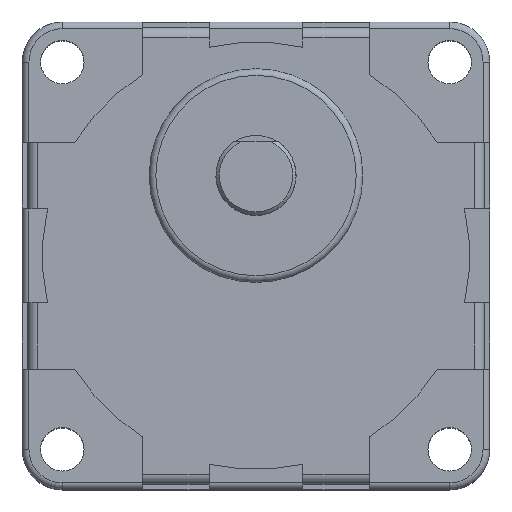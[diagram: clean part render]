
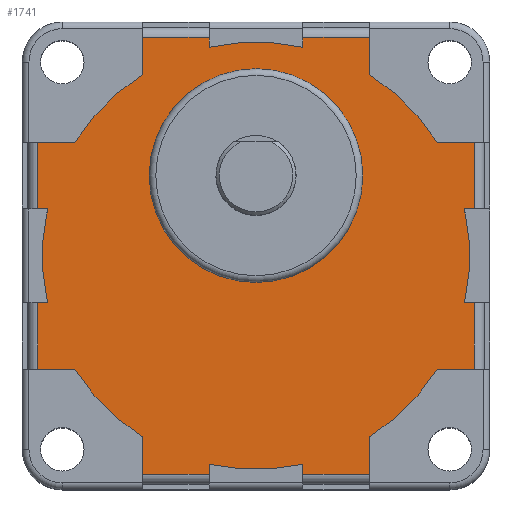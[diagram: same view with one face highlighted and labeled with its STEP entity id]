
A CAD part, top view. The second image highlights one B-rep face of the part: STEP entity #1741.
In plain terms, the highlighted planar face has unit normal (0, 0, 1).
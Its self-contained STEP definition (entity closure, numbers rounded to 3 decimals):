
#29=LINE('',#2638,#196);
#33=LINE('',#2650,#200);
#35=LINE('',#2656,#202);
#36=LINE('',#2660,#203);
#37=LINE('',#2662,#204);
#38=LINE('',#2664,#205);
#39=LINE('',#2668,#206);
#40=LINE('',#2670,#207);
#41=LINE('',#2672,#208);
#42=LINE('',#2676,#209);
#43=LINE('',#2678,#210);
#44=LINE('',#2680,#211);
#45=LINE('',#2684,#212);
#46=LINE('',#2686,#213);
#47=LINE('',#2688,#214);
#48=LINE('',#2692,#215);
#49=LINE('',#2694,#216);
#50=LINE('',#2696,#217);
#51=LINE('',#2700,#218);
#52=LINE('',#2702,#219);
#53=LINE('',#2704,#220);
#54=LINE('',#2707,#221);
#55=LINE('',#2709,#222);
#56=LINE('',#2712,#223);
#196=VECTOR('',#2099,10.);
#200=VECTOR('',#2109,10.);
#202=VECTOR('',#2115,5.589);
#203=VECTOR('',#2118,5.589);
#204=VECTOR('',#2119,10.);
#205=VECTOR('',#2120,1.475);
#206=VECTOR('',#2123,1.475);
#207=VECTOR('',#2124,10.);
#208=VECTOR('',#2125,5.589);
#209=VECTOR('',#2128,5.589);
#210=VECTOR('',#2129,10.);
#211=VECTOR('',#2130,1.475);
#212=VECTOR('',#2133,1.475);
#213=VECTOR('',#2134,10.);
#214=VECTOR('',#2135,5.589);
#215=VECTOR('',#2138,5.589);
#216=VECTOR('',#2139,10.);
#217=VECTOR('',#2140,1.475);
#218=VECTOR('',#2143,1.475);
#219=VECTOR('',#2144,10.);
#220=VECTOR('',#2145,5.589);
#221=VECTOR('',#2148,5.589);
#222=VECTOR('',#2149,1.475);
#223=VECTOR('',#2152,1.475);
#364=PLANE('',#1867);
#461=FACE_BOUND('',#602,.T.);
#488=FACE_OUTER_BOUND('',#601,.T.);
#601=EDGE_LOOP('',(#1269,#1270,#1271,#1272,#1273,#1274,#1275,#1276,#1277,
#1278,#1279,#1280,#1281,#1282,#1283,#1284,#1285,#1286,#1287,#1288,#1289,
#1290,#1291,#1292,#1293,#1294,#1295,#1296,#1297,#1298,#1299,#1300));
#602=EDGE_LOOP('',(#1301));
#711=CIRCLE('',#1858,16.);
#716=CIRCLE('',#1868,32.);
#717=CIRCLE('',#1869,32.);
#718=CIRCLE('',#1870,32.);
#719=CIRCLE('',#1871,32.);
#720=CIRCLE('',#1872,32.);
#721=CIRCLE('',#1873,32.);
#722=CIRCLE('',#1874,32.);
#723=CIRCLE('',#1875,32.);
#805=VERTEX_POINT('',#2627);
#806=VERTEX_POINT('',#2631);
#809=VERTEX_POINT('',#2636);
#813=VERTEX_POINT('',#2647);
#814=VERTEX_POINT('',#2649);
#816=VERTEX_POINT('',#2655);
#817=VERTEX_POINT('',#2657);
#818=VERTEX_POINT('',#2659);
#819=VERTEX_POINT('',#2661);
#820=VERTEX_POINT('',#2663);
#821=VERTEX_POINT('',#2665);
#822=VERTEX_POINT('',#2667);
#823=VERTEX_POINT('',#2669);
#824=VERTEX_POINT('',#2671);
#825=VERTEX_POINT('',#2673);
#826=VERTEX_POINT('',#2675);
#827=VERTEX_POINT('',#2677);
#828=VERTEX_POINT('',#2679);
#829=VERTEX_POINT('',#2681);
#830=VERTEX_POINT('',#2683);
#831=VERTEX_POINT('',#2685);
#832=VERTEX_POINT('',#2687);
#833=VERTEX_POINT('',#2689);
#834=VERTEX_POINT('',#2691);
#835=VERTEX_POINT('',#2693);
#836=VERTEX_POINT('',#2695);
#837=VERTEX_POINT('',#2697);
#838=VERTEX_POINT('',#2699);
#839=VERTEX_POINT('',#2701);
#840=VERTEX_POINT('',#2703);
#841=VERTEX_POINT('',#2705);
#842=VERTEX_POINT('',#2708);
#843=VERTEX_POINT('',#2710);
#982=EDGE_CURVE('',#805,#805,#711,.T.);
#986=EDGE_CURVE('',#809,#806,#29,.T.);
#991=EDGE_CURVE('',#813,#814,#33,.T.);
#994=EDGE_CURVE('',#809,#816,#35,.T.);
#995=EDGE_CURVE('',#817,#816,#716,.T.);
#996=EDGE_CURVE('',#818,#817,#36,.T.);
#997=EDGE_CURVE('',#819,#818,#37,.T.);
#998=EDGE_CURVE('',#820,#819,#38,.T.);
#999=EDGE_CURVE('',#821,#820,#717,.T.);
#1000=EDGE_CURVE('',#821,#822,#39,.T.);
#1001=EDGE_CURVE('',#823,#822,#40,.T.);
#1002=EDGE_CURVE('',#823,#824,#41,.T.);
#1003=EDGE_CURVE('',#825,#824,#718,.T.);
#1004=EDGE_CURVE('',#826,#825,#42,.T.);
#1005=EDGE_CURVE('',#827,#826,#43,.T.);
#1006=EDGE_CURVE('',#828,#827,#44,.T.);
#1007=EDGE_CURVE('',#829,#828,#719,.T.);
#1008=EDGE_CURVE('',#829,#830,#45,.T.);
#1009=EDGE_CURVE('',#831,#830,#46,.T.);
#1010=EDGE_CURVE('',#831,#832,#47,.T.);
#1011=EDGE_CURVE('',#833,#832,#720,.T.);
#1012=EDGE_CURVE('',#834,#833,#48,.T.);
#1013=EDGE_CURVE('',#835,#834,#49,.T.);
#1014=EDGE_CURVE('',#836,#835,#50,.T.);
#1015=EDGE_CURVE('',#837,#836,#721,.T.);
#1016=EDGE_CURVE('',#837,#838,#51,.T.);
#1017=EDGE_CURVE('',#839,#838,#52,.T.);
#1018=EDGE_CURVE('',#839,#840,#53,.T.);
#1019=EDGE_CURVE('',#841,#840,#722,.T.);
#1020=EDGE_CURVE('',#814,#841,#54,.T.);
#1021=EDGE_CURVE('',#842,#813,#55,.T.);
#1022=EDGE_CURVE('',#843,#842,#723,.T.);
#1023=EDGE_CURVE('',#843,#806,#56,.T.);
#1269=ORIENTED_EDGE('',*,*,#986,.F.);
#1270=ORIENTED_EDGE('',*,*,#994,.T.);
#1271=ORIENTED_EDGE('',*,*,#995,.F.);
#1272=ORIENTED_EDGE('',*,*,#996,.F.);
#1273=ORIENTED_EDGE('',*,*,#997,.F.);
#1274=ORIENTED_EDGE('',*,*,#998,.F.);
#1275=ORIENTED_EDGE('',*,*,#999,.F.);
#1276=ORIENTED_EDGE('',*,*,#1000,.T.);
#1277=ORIENTED_EDGE('',*,*,#1001,.F.);
#1278=ORIENTED_EDGE('',*,*,#1002,.T.);
#1279=ORIENTED_EDGE('',*,*,#1003,.F.);
#1280=ORIENTED_EDGE('',*,*,#1004,.F.);
#1281=ORIENTED_EDGE('',*,*,#1005,.F.);
#1282=ORIENTED_EDGE('',*,*,#1006,.F.);
#1283=ORIENTED_EDGE('',*,*,#1007,.F.);
#1284=ORIENTED_EDGE('',*,*,#1008,.T.);
#1285=ORIENTED_EDGE('',*,*,#1009,.F.);
#1286=ORIENTED_EDGE('',*,*,#1010,.T.);
#1287=ORIENTED_EDGE('',*,*,#1011,.F.);
#1288=ORIENTED_EDGE('',*,*,#1012,.F.);
#1289=ORIENTED_EDGE('',*,*,#1013,.F.);
#1290=ORIENTED_EDGE('',*,*,#1014,.F.);
#1291=ORIENTED_EDGE('',*,*,#1015,.F.);
#1292=ORIENTED_EDGE('',*,*,#1016,.T.);
#1293=ORIENTED_EDGE('',*,*,#1017,.F.);
#1294=ORIENTED_EDGE('',*,*,#1018,.T.);
#1295=ORIENTED_EDGE('',*,*,#1019,.F.);
#1296=ORIENTED_EDGE('',*,*,#1020,.F.);
#1297=ORIENTED_EDGE('',*,*,#991,.F.);
#1298=ORIENTED_EDGE('',*,*,#1021,.F.);
#1299=ORIENTED_EDGE('',*,*,#1022,.F.);
#1300=ORIENTED_EDGE('',*,*,#1023,.T.);
#1301=ORIENTED_EDGE('',*,*,#982,.F.);
#1741=ADVANCED_FACE('',(#488,#461),#364,.T.);
#1858=AXIS2_PLACEMENT_3D('',#2628,#2088,#2089);
#1867=AXIS2_PLACEMENT_3D('',#2654,#2113,#2114);
#1868=AXIS2_PLACEMENT_3D('',#2658,#2116,#2117);
#1869=AXIS2_PLACEMENT_3D('',#2666,#2121,#2122);
#1870=AXIS2_PLACEMENT_3D('',#2674,#2126,#2127);
#1871=AXIS2_PLACEMENT_3D('',#2682,#2131,#2132);
#1872=AXIS2_PLACEMENT_3D('',#2690,#2136,#2137);
#1873=AXIS2_PLACEMENT_3D('',#2698,#2141,#2142);
#1874=AXIS2_PLACEMENT_3D('',#2706,#2146,#2147);
#1875=AXIS2_PLACEMENT_3D('',#2711,#2150,#2151);
#2088=DIRECTION('center_axis',(0.,0.,1.));
#2089=DIRECTION('ref_axis',(-1.,0.,0.));
#2099=DIRECTION('',(0.,-1.,0.));
#2109=DIRECTION('',(0.,-1.,0.));
#2113=DIRECTION('center_axis',(0.,0.,1.));
#2114=DIRECTION('ref_axis',(1.,0.,0.));
#2115=DIRECTION('',(-1.,0.,0.));
#2116=DIRECTION('center_axis',(0.,0.,-1.));
#2117=DIRECTION('ref_axis',(-1.,0.,0.));
#2118=DIRECTION('',(0.,-1.,0.));
#2119=DIRECTION('',(1.,0.,0.));
#2120=DIRECTION('',(0.,1.,0.));
#2121=DIRECTION('center_axis',(0.,0.,-1.));
#2122=DIRECTION('ref_axis',(-1.,0.,0.));
#2123=DIRECTION('',(0.,1.,0.));
#2124=DIRECTION('',(1.,0.,0.));
#2125=DIRECTION('',(0.,-1.,0.));
#2126=DIRECTION('center_axis',(0.,0.,-1.));
#2127=DIRECTION('ref_axis',(-1.,0.,0.));
#2128=DIRECTION('',(1.,0.,0.));
#2129=DIRECTION('',(0.,1.,0.));
#2130=DIRECTION('',(-1.,0.,0.));
#2131=DIRECTION('center_axis',(0.,0.,-1.));
#2132=DIRECTION('ref_axis',(-1.,0.,0.));
#2133=DIRECTION('',(-1.,0.,0.));
#2134=DIRECTION('',(0.,1.,0.));
#2135=DIRECTION('',(1.,0.,0.));
#2136=DIRECTION('center_axis',(0.,0.,-1.));
#2137=DIRECTION('ref_axis',(-1.,0.,0.));
#2138=DIRECTION('',(0.,1.,0.));
#2139=DIRECTION('',(-1.,0.,0.));
#2140=DIRECTION('',(0.,-1.,0.));
#2141=DIRECTION('center_axis',(0.,0.,-1.));
#2142=DIRECTION('ref_axis',(-1.,0.,0.));
#2143=DIRECTION('',(0.,-1.,0.));
#2144=DIRECTION('',(-1.,0.,0.));
#2145=DIRECTION('',(0.,1.,0.));
#2146=DIRECTION('center_axis',(0.,0.,-1.));
#2147=DIRECTION('ref_axis',(-1.,0.,0.));
#2148=DIRECTION('',(-1.,0.,0.));
#2149=DIRECTION('',(1.,0.,0.));
#2150=DIRECTION('center_axis',(0.,0.,-1.));
#2151=DIRECTION('ref_axis',(-1.,0.,0.));
#2152=DIRECTION('',(1.,0.,0.));
#2627=CARTESIAN_POINT('',(16.,12.,42.2));
#2628=CARTESIAN_POINT('Origin',(0.,12.,42.2));
#2631=CARTESIAN_POINT('',(32.7,7.,42.2));
#2636=CARTESIAN_POINT('',(32.7,17.,42.2));
#2638=CARTESIAN_POINT('',(32.7,8.5,42.2));
#2647=CARTESIAN_POINT('',(32.7,-7.,42.2));
#2649=CARTESIAN_POINT('',(32.7,-17.,42.2));
#2650=CARTESIAN_POINT('',(32.7,-8.5,42.2));
#2654=CARTESIAN_POINT('Origin',(0.,0.,42.2));
#2655=CARTESIAN_POINT('',(27.111,17.,42.2));
#2656=CARTESIAN_POINT('',(27.111,17.,42.2));
#2657=CARTESIAN_POINT('',(17.,27.111,42.2));
#2658=CARTESIAN_POINT('Origin',(0.,0.,42.2));
#2659=CARTESIAN_POINT('',(17.,32.7,42.2));
#2660=CARTESIAN_POINT('',(17.,27.111,42.2));
#2661=CARTESIAN_POINT('',(7.,32.7,42.2));
#2662=CARTESIAN_POINT('',(8.5,32.7,42.2));
#2663=CARTESIAN_POINT('',(7.,31.225,42.2));
#2664=CARTESIAN_POINT('',(7.,35.,42.2));
#2665=CARTESIAN_POINT('',(-7.,31.225,42.2));
#2666=CARTESIAN_POINT('Origin',(0.,0.,42.2));
#2667=CARTESIAN_POINT('',(-7.,32.7,42.2));
#2668=CARTESIAN_POINT('',(-7.,35.,42.2));
#2669=CARTESIAN_POINT('',(-17.,32.7,42.2));
#2670=CARTESIAN_POINT('',(-8.5,32.7,42.2));
#2671=CARTESIAN_POINT('',(-17.,27.111,42.2));
#2672=CARTESIAN_POINT('',(-17.,27.111,42.2));
#2673=CARTESIAN_POINT('',(-27.111,17.,42.2));
#2674=CARTESIAN_POINT('Origin',(0.,0.,42.2));
#2675=CARTESIAN_POINT('',(-32.7,17.,42.2));
#2676=CARTESIAN_POINT('',(-27.111,17.,42.2));
#2677=CARTESIAN_POINT('',(-32.7,7.,42.2));
#2678=CARTESIAN_POINT('',(-32.7,8.5,42.2));
#2679=CARTESIAN_POINT('',(-31.225,7.,42.2));
#2680=CARTESIAN_POINT('',(-35.,7.,42.2));
#2681=CARTESIAN_POINT('',(-31.225,-7.,42.2));
#2682=CARTESIAN_POINT('Origin',(0.,0.,42.2));
#2683=CARTESIAN_POINT('',(-32.7,-7.,42.2));
#2684=CARTESIAN_POINT('',(-35.,-7.,42.2));
#2685=CARTESIAN_POINT('',(-32.7,-17.,42.2));
#2686=CARTESIAN_POINT('',(-32.7,-8.5,42.2));
#2687=CARTESIAN_POINT('',(-27.111,-17.,42.2));
#2688=CARTESIAN_POINT('',(-27.111,-17.,42.2));
#2689=CARTESIAN_POINT('',(-17.,-27.111,42.2));
#2690=CARTESIAN_POINT('Origin',(0.,0.,42.2));
#2691=CARTESIAN_POINT('',(-17.,-32.7,42.2));
#2692=CARTESIAN_POINT('',(-17.,-27.111,42.2));
#2693=CARTESIAN_POINT('',(-7.,-32.7,42.2));
#2694=CARTESIAN_POINT('',(-8.5,-32.7,42.2));
#2695=CARTESIAN_POINT('',(-7.,-31.225,42.2));
#2696=CARTESIAN_POINT('',(-7.,-35.,42.2));
#2697=CARTESIAN_POINT('',(7.,-31.225,42.2));
#2698=CARTESIAN_POINT('Origin',(0.,0.,42.2));
#2699=CARTESIAN_POINT('',(7.,-32.7,42.2));
#2700=CARTESIAN_POINT('',(7.,-35.,42.2));
#2701=CARTESIAN_POINT('',(17.,-32.7,42.2));
#2702=CARTESIAN_POINT('',(8.5,-32.7,42.2));
#2703=CARTESIAN_POINT('',(17.,-27.111,42.2));
#2704=CARTESIAN_POINT('',(17.,-27.111,42.2));
#2705=CARTESIAN_POINT('',(27.111,-17.,42.2));
#2706=CARTESIAN_POINT('Origin',(0.,0.,42.2));
#2707=CARTESIAN_POINT('',(27.111,-17.,42.2));
#2708=CARTESIAN_POINT('',(31.225,-7.,42.2));
#2709=CARTESIAN_POINT('',(35.,-7.,42.2));
#2710=CARTESIAN_POINT('',(31.225,7.,42.2));
#2711=CARTESIAN_POINT('Origin',(0.,0.,42.2));
#2712=CARTESIAN_POINT('',(35.,7.,42.2));
